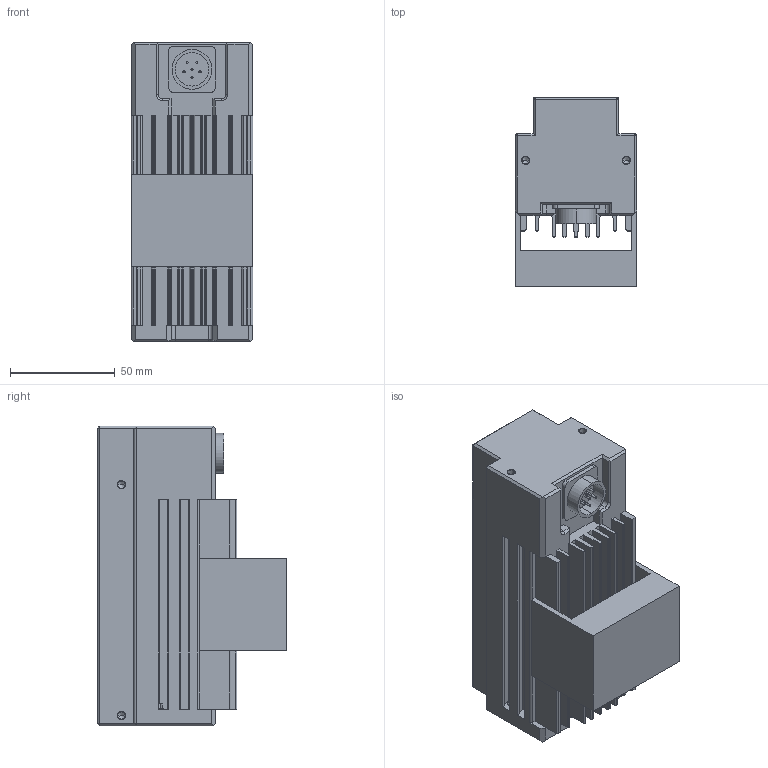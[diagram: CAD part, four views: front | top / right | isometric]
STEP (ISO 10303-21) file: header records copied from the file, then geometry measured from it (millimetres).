
FILE_DESCRIPTION((''),'2;1');
FILE_NAME('MV-LTHS-100-W','2019-09-19T',('win7'),(''),'PRO/ENGINEER BY PARAMETRIC TECHNOLOGY CORPORATION, 2010100','PRO/ENGINEER BY PARAMETRIC TECHNOLOGY CORPORATION, 2010100','');
FILE_SCHEMA(('CONFIG_CONTROL_DESIGN'));
Length unit declared in the file: millimetre
Products named in the file (1): MV-LTHS-100-W
Bounding box: 58 x 90.1 x 143 mm (x, y, z)
Volume: 460048.4 mm3; surface area: 74586.9 mm2
Topology: 1 solids, 9 shells, 310 faces, 830 edges, 526 vertices
Faces by surface type: plane 196, cylinder 88, cone 26
Entity records: 9500 total; most frequent: CARTESIAN_POINT 1676, DIRECTION 1628, ORIENTED_EDGE 1576, EDGE_CURVE 810, VECTOR 602, LINE 602, VERTEX_POINT 526, AXIS2_PLACEMENT_3D 513
